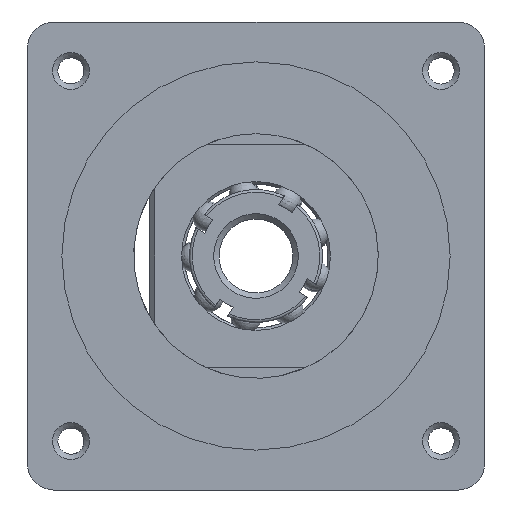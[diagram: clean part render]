
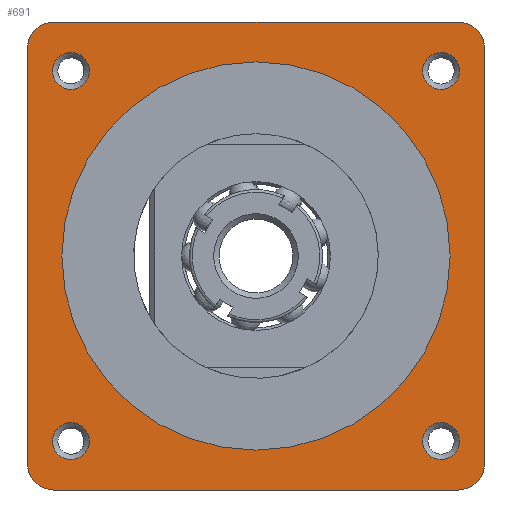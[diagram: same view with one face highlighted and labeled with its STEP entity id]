
A CAD part, left-side view. The second image highlights one B-rep face of the part: STEP entity #691.
In plain terms, the highlighted planar face has unit normal (-1, 0, 0).
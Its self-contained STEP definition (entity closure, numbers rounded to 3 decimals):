
#691=ADVANCED_FACE('',(#3502,#3504,#3506,#3508,#3510,#3512),#3514,.T.);
#3502=FACE_BOUND('',#3503,.T.);
#3503=EDGE_LOOP('',(#5986,#5987,#5988,#5989,#5990,#5991,#5992,#5993));
#3504=FACE_BOUND('',#3505,.T.);
#3505=EDGE_LOOP('',(#5994));
#3506=FACE_BOUND('',#3507,.T.);
#3507=EDGE_LOOP('',(#5995));
#3508=FACE_BOUND('',#3509,.T.);
#3509=EDGE_LOOP('',(#5996));
#3510=FACE_BOUND('',#3511,.T.);
#3511=EDGE_LOOP('',(#5997));
#3512=FACE_BOUND('',#3513,.T.);
#3513=EDGE_LOOP('',(#5998));
#3514=PLANE('',#3515);
#3515=AXIS2_PLACEMENT_3D('',#3516,#3517,#3518);
#3516=CARTESIAN_POINT('',(-11.,86.,-44.));
#3517=DIRECTION('',(-1.,0.,0.));
#3518=DIRECTION('',(0.,-1.,0.));
#5986=ORIENTED_EDGE('',*,*,#7129,.F.);
#5987=ORIENTED_EDGE('',*,*,#7110,.T.);
#5988=ORIENTED_EDGE('',*,*,#7130,.F.);
#5989=ORIENTED_EDGE('',*,*,#7043,.F.);
#5990=ORIENTED_EDGE('',*,*,#7131,.F.);
#5991=ORIENTED_EDGE('',*,*,#7005,.F.);
#5992=ORIENTED_EDGE('',*,*,#7132,.F.);
#5993=ORIENTED_EDGE('',*,*,#7065,.T.);
#5994=ORIENTED_EDGE('',*,*,#7133,.T.);
#5995=ORIENTED_EDGE('',*,*,#7114,.T.);
#5996=ORIENTED_EDGE('',*,*,#7134,.T.);
#5997=ORIENTED_EDGE('',*,*,#7113,.T.);
#5998=ORIENTED_EDGE('',*,*,#7135,.T.);
#7005=EDGE_CURVE('',#7668,#7661,#7670,.T.);
#7043=EDGE_CURVE('',#7735,#7733,#7737,.T.);
#7065=EDGE_CURVE('',#7778,#7776,#7779,.T.);
#7110=EDGE_CURVE('',#7846,#7848,#7850,.T.);
#7113=EDGE_CURVE('',#7855,#7855,#7856,.F.);
#7114=EDGE_CURVE('',#7857,#7857,#7858,.F.);
#7129=EDGE_CURVE('',#7846,#7776,#7882,.F.);
#7130=EDGE_CURVE('',#7733,#7848,#7883,.F.);
#7131=EDGE_CURVE('',#7661,#7735,#7884,.F.);
#7132=EDGE_CURVE('',#7778,#7668,#7885,.F.);
#7133=EDGE_CURVE('',#7886,#7886,#7887,.F.);
#7134=EDGE_CURVE('',#7888,#7888,#7889,.F.);
#7135=EDGE_CURVE('',#7890,#7890,#7891,.F.);
#7661=VERTEX_POINT('',#8872);
#7668=VERTEX_POINT('',#8887);
#7670=LINE('',#8891,#8892);
#7733=VERTEX_POINT('',#9033);
#7735=VERTEX_POINT('',#9037);
#7737=LINE('',#9041,#9042);
#7776=VERTEX_POINT('',#9136);
#7778=VERTEX_POINT('',#9140);
#7779=LINE('',#9141,#9142);
#7846=VERTEX_POINT('',#9306);
#7848=VERTEX_POINT('',#9310);
#7850=LINE('',#9314,#9315);
#7855=VERTEX_POINT('',#9327);
#7856=CIRCLE('',#9328,3.459);
#7857=VERTEX_POINT('',#9332);
#7858=CIRCLE('',#9333,3.459);
#7882=CIRCLE('',#9392,5.);
#7883=CIRCLE('',#9396,5.);
#7884=CIRCLE('',#9400,5.);
#7885=CIRCLE('',#9404,5.);
#7886=VERTEX_POINT('',#9408);
#7887=CIRCLE('',#9409,3.459);
#7888=VERTEX_POINT('',#9413);
#7889=CIRCLE('',#9414,36.5);
#7890=VERTEX_POINT('',#9418);
#7891=CIRCLE('',#9419,3.459);
#8872=CARTESIAN_POINT('',(-11.,86.,39.));
#8887=CARTESIAN_POINT('',(-11.,86.,-39.));
#8891=CARTESIAN_POINT('',(-11.,86.,-39.));
#8892=VECTOR('',#8893,1.);
#8893=DIRECTION('',(0.,0.,1.));
#9033=CARTESIAN_POINT('',(-11.,5.,44.));
#9037=CARTESIAN_POINT('',(-11.,81.,44.));
#9041=CARTESIAN_POINT('',(-11.,81.,44.));
#9042=VECTOR('',#9043,1.);
#9043=DIRECTION('',(0.,-1.,0.));
#9136=CARTESIAN_POINT('',(-11.,5.,-44.));
#9140=CARTESIAN_POINT('',(-11.,81.,-44.));
#9141=CARTESIAN_POINT('',(-11.,81.,-44.));
#9142=VECTOR('',#9143,1.);
#9143=DIRECTION('',(0.,-1.,0.));
#9306=CARTESIAN_POINT('',(-11.,0.,-39.));
#9310=CARTESIAN_POINT('',(-11.,0.,39.));
#9314=CARTESIAN_POINT('',(-11.,0.,-39.));
#9315=VECTOR('',#9316,1.);
#9316=DIRECTION('',(0.,0.,1.));
#9327=CARTESIAN_POINT('',(-11.,81.259,-34.8));
#9328=AXIS2_PLACEMENT_3D('',#9329,#9330,#9331);
#9329=CARTESIAN_POINT('',(-11.,77.8,-34.8));
#9330=DIRECTION('',(-1.,0.,0.));
#9331=DIRECTION('',(0.,1.,0.));
#9332=CARTESIAN_POINT('',(-11.,81.259,34.8));
#9333=AXIS2_PLACEMENT_3D('',#9334,#9335,#9336);
#9334=CARTESIAN_POINT('',(-11.,77.8,34.8));
#9335=DIRECTION('',(-1.,0.,0.));
#9336=DIRECTION('',(0.,1.,0.));
#9392=AXIS2_PLACEMENT_3D('',#9393,#9394,#9395);
#9393=CARTESIAN_POINT('',(-11.,5.,-39.));
#9394=DIRECTION('',(-1.,0.,0.));
#9395=DIRECTION('',(0.,0.,-1.));
#9396=AXIS2_PLACEMENT_3D('',#9397,#9398,#9399);
#9397=CARTESIAN_POINT('',(-11.,5.,39.));
#9398=DIRECTION('',(-1.,0.,0.));
#9399=DIRECTION('',(0.,-1.,0.));
#9400=AXIS2_PLACEMENT_3D('',#9401,#9402,#9403);
#9401=CARTESIAN_POINT('',(-11.,81.,39.));
#9402=DIRECTION('',(-1.,0.,0.));
#9403=DIRECTION('',(0.,0.,1.));
#9404=AXIS2_PLACEMENT_3D('',#9405,#9406,#9407);
#9405=CARTESIAN_POINT('',(-11.,81.,-39.));
#9406=DIRECTION('',(-1.,0.,0.));
#9407=DIRECTION('',(0.,1.,0.));
#9408=CARTESIAN_POINT('',(-11.,11.659,-34.8));
#9409=AXIS2_PLACEMENT_3D('',#9410,#9411,#9412);
#9410=CARTESIAN_POINT('',(-11.,8.2,-34.8));
#9411=DIRECTION('',(-1.,0.,0.));
#9412=DIRECTION('',(0.,1.,0.));
#9413=CARTESIAN_POINT('',(-11.,43.,36.5));
#9414=AXIS2_PLACEMENT_3D('',#9415,#9416,#9417);
#9415=CARTESIAN_POINT('',(-11.,43.,0.));
#9416=DIRECTION('',(-1.,0.,0.));
#9417=DIRECTION('',(0.,0.,1.));
#9418=CARTESIAN_POINT('',(-11.,11.659,34.8));
#9419=AXIS2_PLACEMENT_3D('',#9420,#9421,#9422);
#9420=CARTESIAN_POINT('',(-11.,8.2,34.8));
#9421=DIRECTION('',(-1.,0.,0.));
#9422=DIRECTION('',(0.,1.,0.));
